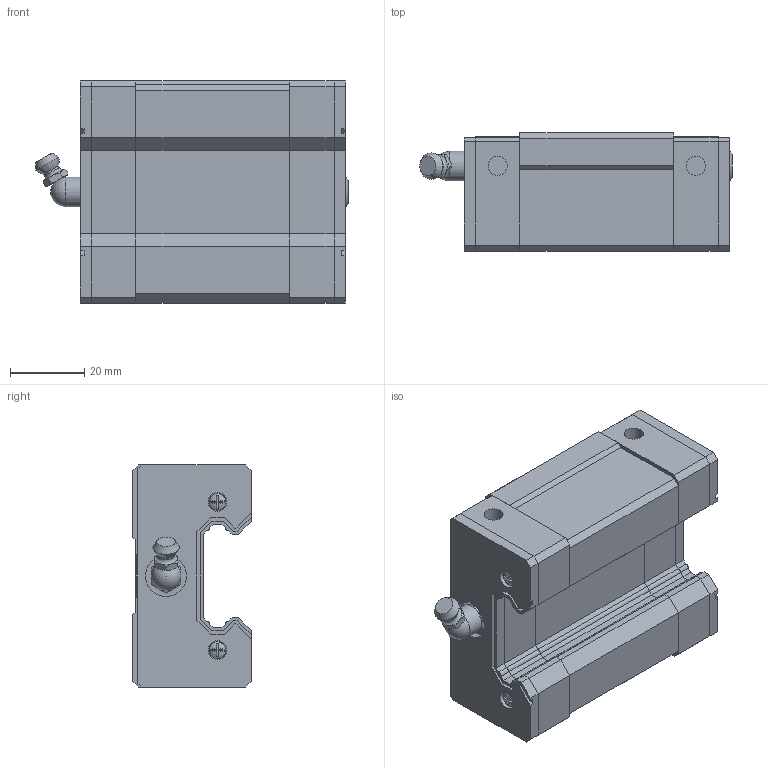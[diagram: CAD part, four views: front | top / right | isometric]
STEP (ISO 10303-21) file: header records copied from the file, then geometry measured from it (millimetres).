
FILE_DESCRIPTION(('FreeCAD Model'),'2;1');
FILE_NAME('Open CASCADE Shape Model','2024-12-05T16:37:08',('Author'),( ''),'Open CASCADE STEP processor 7.6','FreeCAD','Unknown');
FILE_SCHEMA(('AUTOMOTIVE_DESIGN { 1 0 10303 214 1 1 1 1 }'));
Length unit declared in the file: millimetre
Products named in the file (7): EH30SA; GEH30SA_slider; GES30_C; GES30_P; GH30_SCREW; GH30_BOLT; GH30-_G
Assembly tree (11 placements, depth 2):
  EH30SA
    GEH30SA_slider
    GES30_C  x2
    GES30_P  x2
    GH30_SCREW  x4
    GH30_BOLT
    GH30-_G
Bounding box: 84.3 x 32 x 60 mm (x, y, z)
Volume: 107970.8 mm3; surface area: 32606.2 mm2
Topology: 11 solids, 11 shells, 367 faces, 951 edges, 624 vertices
Faces by surface type: plane 288, cylinder 49, cone 18, torus 6, sphere 5, bspline 1
Full cylindrical faces by diameter (mm): 2.2 x4, 4.5 x1, 4.65 x4, 5 x4, 5.2 x4, 6 x2, 6.5 x2, 6.647 x2, 7.1 x2, 8 x1, 8.2 x1, 11 x2
Entity records: 6706 total; most frequent: CARTESIAN_POINT 1321, ORIENTED_EDGE 1084, DIRECTION 1024, EDGE_CURVE 542, LINE 390, VECTOR 390, VERTEX_POINT 354, AXIS2_PLACEMENT_3D 317
